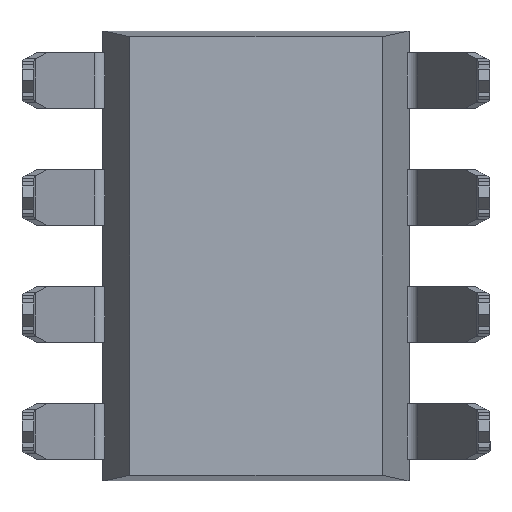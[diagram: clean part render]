
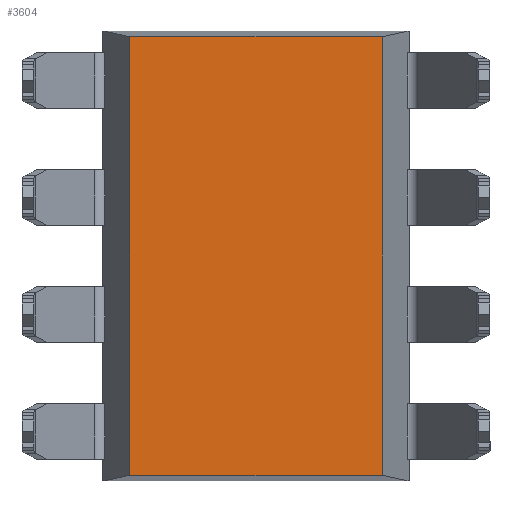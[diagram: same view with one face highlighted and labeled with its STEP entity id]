
A CAD part, front view. The second image highlights one B-rep face of the part: STEP entity #3604.
In plain terms, the highlighted planar face has unit normal (0, -1, 0).
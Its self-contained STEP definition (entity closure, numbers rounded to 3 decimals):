
#303 = DIRECTION ( 'NONE',  ( 0., 0., 1. ) ) ;
#360 = CARTESIAN_POINT ( 'NONE',  ( -2.745, -1.778, -4.761 ) ) ;
#597 = CARTESIAN_POINT ( 'NONE',  ( -3.322, -1.778, 4.761 ) ) ;
#900 = EDGE_CURVE ( 'NONE', #4202, #1221, #1557, .T. ) ;
#930 = EDGE_CURVE ( 'NONE', #997, #1682, #1875, .T. ) ;
#997 = VERTEX_POINT ( 'NONE', #3920 ) ;
#1117 = DIRECTION ( 'NONE',  ( 0., 0., 1. ) ) ;
#1176 = CARTESIAN_POINT ( 'NONE',  ( -3.322, -1.778, -4.761 ) ) ;
#1221 = VERTEX_POINT ( 'NONE', #4967 ) ;
#1315 = CARTESIAN_POINT ( 'NONE',  ( 0., -1.778, 0. ) ) ;
#1409 = CARTESIAN_POINT ( 'NONE',  ( 2.745, -1.778, 4.761 ) ) ;
#1415 = EDGE_CURVE ( 'NONE', #4202, #997, #1773, .T. ) ;
#1429 = FACE_OUTER_BOUND ( 'NONE', #1633, .T. ) ;
#1480 = AXIS2_PLACEMENT_3D ( 'NONE', #1315, #4424, #5457 ) ;
#1557 = LINE ( 'NONE', #1176, #5029 ) ;
#1570 = ORIENTED_EDGE ( 'NONE', *, *, #930, .F. ) ;
#1633 = EDGE_LOOP ( 'NONE', ( #1570, #6599, #6364, #3134 ) ) ;
#1682 = VERTEX_POINT ( 'NONE', #1409 ) ;
#1729 = EDGE_CURVE ( 'NONE', #1221, #1682, #5736, .T. ) ;
#1773 = LINE ( 'NONE', #3169, #5646 ) ;
#1875 = LINE ( 'NONE', #597, #4524 ) ;
#2142 = DIRECTION ( 'NONE',  ( 1., 0., 0. ) ) ;
#2206 = DIRECTION ( 'NONE',  ( 1., 0., 0. ) ) ;
#3134 = ORIENTED_EDGE ( 'NONE', *, *, #1729, .T. ) ;
#3169 = CARTESIAN_POINT ( 'NONE',  ( -2.745, -1.778, -6.215 ) ) ;
#3438 = CARTESIAN_POINT ( 'NONE',  ( 2.745, -1.778, -6.215 ) ) ;
#3443 = PLANE ( 'NONE',  #1480 ) ;
#3493 = VECTOR ( 'NONE', #303, 1000. ) ;
#3604 = ADVANCED_FACE ( 'NONE', ( #1429 ), #3443, .T. ) ;
#3920 = CARTESIAN_POINT ( 'NONE',  ( -2.745, -1.778, 4.761 ) ) ;
#4202 = VERTEX_POINT ( 'NONE', #360 ) ;
#4424 = DIRECTION ( 'NONE',  ( 0., -1., 0. ) ) ;
#4524 = VECTOR ( 'NONE', #2206, 1000. ) ;
#4967 = CARTESIAN_POINT ( 'NONE',  ( 2.745, -1.778, -4.761 ) ) ;
#5029 = VECTOR ( 'NONE', #2142, 1000. ) ;
#5457 = DIRECTION ( 'NONE',  ( 0., 0., -1. ) ) ;
#5646 = VECTOR ( 'NONE', #1117, 1000. ) ;
#5736 = LINE ( 'NONE', #3438, #3493 ) ;
#6364 = ORIENTED_EDGE ( 'NONE', *, *, #900, .T. ) ;
#6599 = ORIENTED_EDGE ( 'NONE', *, *, #1415, .F. ) ;
